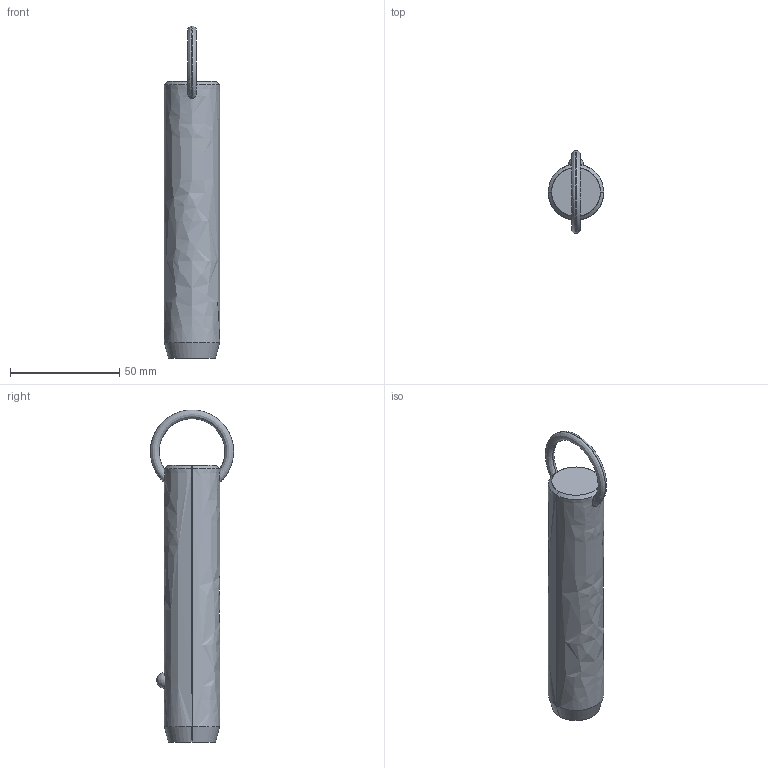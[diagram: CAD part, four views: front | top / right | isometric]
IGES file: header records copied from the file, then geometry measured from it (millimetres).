
Start section: SolidWorks IGES file using analytic representation for surfaces
Global section: file name: C:\Users\liam_\OneDrive\Documents\WORK\Work for WixRoyd\Job Files\J-00019 - Matt Davis CAD Checking\04. CAD Drawings\automotion20190605\P1250.2_v2\P1250.2_v2_20190729_IGES\P1250.100-320.igs; native system: SolidWorks 2017; preprocessor: SolidWorks 2017; author: liam_; date: 190730.173723; units: millimetre
Bounding box: 25.4 x 38.1 x 152.1 mm (x, y, z)
Surface area: 11883.5 mm2 (no closed solid volume)
Topology: 0 solids, 0 shells, 12 faces, 298 edges, 296 vertices
Faces by surface type: revolution 8, bspline 4
